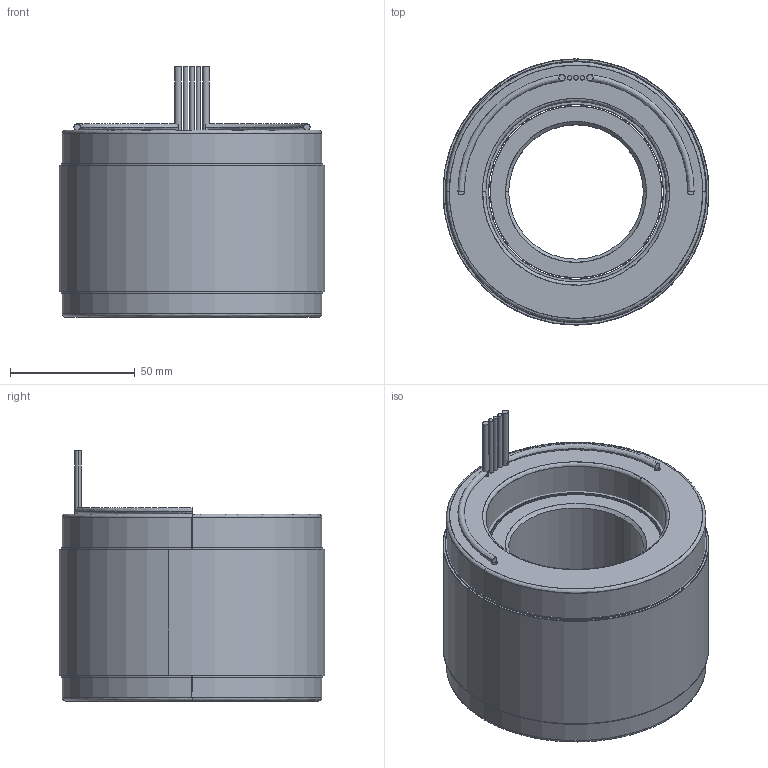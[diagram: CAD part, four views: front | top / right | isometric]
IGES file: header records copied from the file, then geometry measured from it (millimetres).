
Start section: SolidWorks IGES file using analytic representation for surfaces
Global section: file name: \\fs01.aveox.local\user documents\eng\My Documents\STANDARD STATOR ROTOR SETS\NEW DIRECT DRIVE MOTOR\4.2 OD 18S16P\6100329-03.IGS; native system: SolidWorks 2016; preprocessor: SolidWorks 2016; author: eng; date: 191023.143316; units: millimetre
Bounding box: 106.68 x 106.68 x 100.33 mm (x, y, z)
Surface area: 152500.2 mm2 (no closed solid volume)
Topology: 0 solids, 0 shells, 94 faces, 2628 edges, 2628 vertices
Faces by surface type: revolution 52, bspline 42
